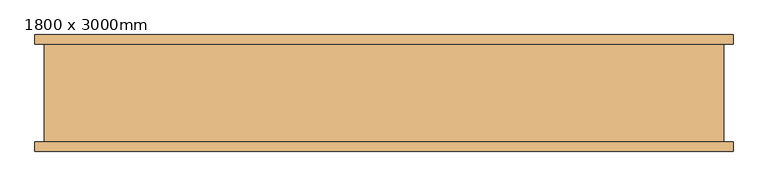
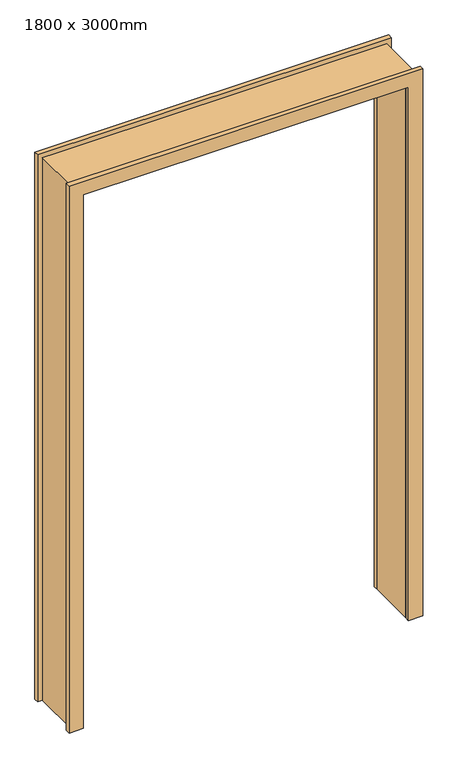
"""IFC4 building model written with IfcOpenShell, lengths in millimetres: door geometry, 门洞 : 1800 x 3000mm."""

from ifc_helpers import new_model, si_unit, frame, origin, place, context, project, spatial, polyline, outline, extrude, source, transform, mapped, element, save


def door_1800_x_3000mm_c185189f(model_context):
    return source(origin(), model_context, "Body", "SweptSolid", [
        extrude(outline(polyline([(3000.0, -900.0), (0.0, -900.0), (0.0, -850.0), (2950.0, -850.0), (2950.0, 850.0), (0.0, 850.0), (0.0, 900.0), (3000.0, 900.0), (3000.0, -900.0)])), frame((0.0, -130.0, 0.0), z_axis=(0.0, 1.0, 0.0), x_axis=(0.0, 0.0, 1.0)), (0.0, 0.0, 1.0), 260.0),
        extrude(outline(polyline([(3025.0, -925.0), (0.0, -925.0), (0.0, -850.0), (2950.0, -850.0), (2950.0, 850.0), (0.0, 850.0), (0.0, 925.0), (3025.0, 925.0), (3025.0, -925.0)])), frame((0.0, 130.0, 0.0), z_axis=(0.0, 1.0, 0.0), x_axis=(0.0, 0.0, 1.0)), (0.0, 0.0, 1.0), 25.0),
        extrude(outline(polyline([(3025.0, -925.0), (0.0, -925.0), (0.0, -850.0), (2950.0, -850.0), (2950.0, 850.0), (0.0, 850.0), (0.0, 925.0), (3025.0, 925.0), (3025.0, -925.0)])), frame((0.0, -155.0, 0.0), z_axis=(0.0, 1.0, 0.0), x_axis=(0.0, 0.0, 1.0)), (0.0, 0.0, 1.0), 25.0),
    ])


if __name__ == "__main__":
    model = new_model("IFC4")
    model_context = context("Model", 3, world=origin())
    ifc_project = project(units=[si_unit("LENGTHUNIT", "METRE", prefix="MILLI")], contexts=[model_context])
    site = spatial("IfcSite", under=ifc_project)
    building = spatial("IfcBuilding", under=site)
    placement = place(None, origin())
    door_1800_x_3000mm_shape = door_1800_x_3000mm_c185189f(model_context)
    element("IfcDoor", 1, ObjectType="门洞 : 1800 x 3000mm", at=placement, inside=building, context=model_context, shape_type="MappedRepresentation", body=[
        mapped(door_1800_x_3000mm_shape, transform((0.0, 0.0, 0.0), x_axis=(1.0, 0.0, 0.0), y_axis=(0.0, 1.0, 0.0), z_axis=(0.0, 0.0, 1.0))),
    ])
    save(model, "model.ifc")
